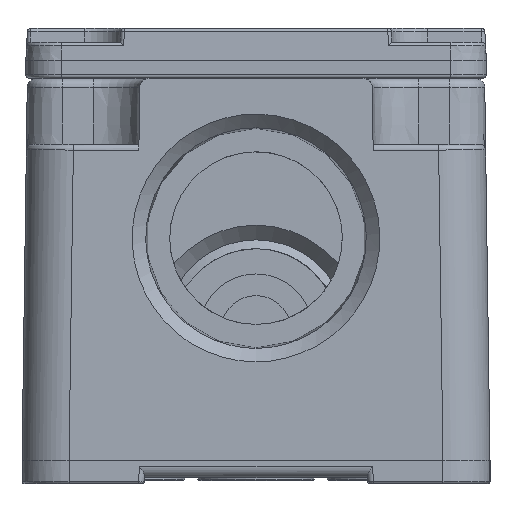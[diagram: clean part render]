
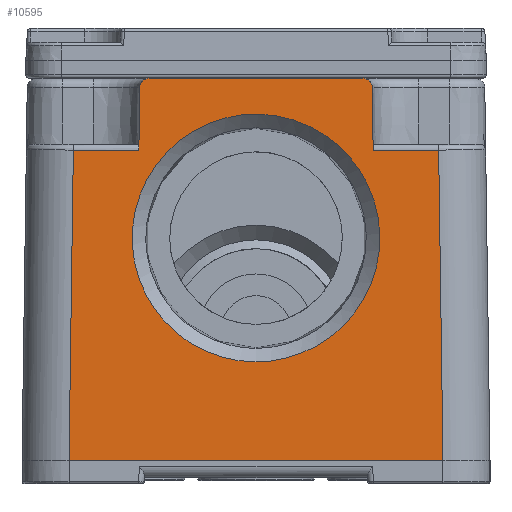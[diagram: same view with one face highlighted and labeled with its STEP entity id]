
A CAD part, left-side view. The second image highlights one B-rep face of the part: STEP entity #10595.
In plain terms, the highlighted planar face has unit normal (-1, 0, 0.011).
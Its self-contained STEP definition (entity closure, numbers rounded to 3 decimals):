
#7413 = VERTEX_POINT('',#7414);
#7414 = CARTESIAN_POINT('',(-26.671,8.705,
    17.42));
#7420 = EDGE_CURVE('',#7413,#7421,#7423,.T.);
#7421 = VERTEX_POINT('',#7422);
#7422 = CARTESIAN_POINT('',(-26.671,-9.482,
    17.42));
#7423 = LINE('',#7424,#7425);
#7424 = CARTESIAN_POINT('',(-26.671,-0.389,
    17.42));
#7425 = VECTOR('',#7426,1.);
#7426 = DIRECTION('',(0.,-1.,0.));
#7579 = EDGE_CURVE('',#7580,#7582,#7584,.T.);
#7580 = VERTEX_POINT('',#7581);
#7581 = CARTESIAN_POINT('',(-26.735,15.156,11.325
    ));
#7582 = VERTEX_POINT('',#7583);
#7583 = CARTESIAN_POINT('',(-27.011,15.525,
    -15.08));
#7584 = LINE('',#7585,#7586);
#7585 = CARTESIAN_POINT('',(-27.009,15.522,
    -14.858));
#7586 = VECTOR('',#7587,1.);
#7587 = DIRECTION('',(-0.01,0.014,
    -1.));
#9175 = VERTEX_POINT('',#9176);
#9176 = CARTESIAN_POINT('',(-27.011,-16.302,
    -15.08));
#9182 = EDGE_CURVE('',#9175,#7582,#9183,.T.);
#9183 = LINE('',#9184,#9185);
#9184 = CARTESIAN_POINT('',(-27.011,-0.389,
    -15.08));
#9185 = VECTOR('',#9186,1.);
#9186 = DIRECTION('',(0.,1.,0.));
#10595 = ADVANCED_FACE('',(#10596,#10621),#10680,.F.);
#10596 = FACE_BOUND('',#10597,.T.);
#10597 = EDGE_LOOP('',(#10598));
#10598 = ORIENTED_EDGE('',*,*,#10599,.T.);
#10599 = EDGE_CURVE('',#10600,#10600,#10602,.T.);
#10600 = VERTEX_POINT('',#10601);
#10601 = CARTESIAN_POINT('',(-26.924,-0.389,
    -6.704));
#10602 = B_SPLINE_CURVE_WITH_KNOTS('',3,(#10603,#10604,#10605,#10606,
    #10607,#10608,#10609,#10610,#10611,#10612,#10613,#10614,#10615,
    #10616,#10617,#10618,#10619,#10620),.UNSPECIFIED.,.T.,.F.,(2,2,2,2,2
    ,2,2,2,2,2,2),(-0.125,0.,0.125,0.25,0.375,0.5,0.625,0.75,0.875,1.,
    1.125),.UNSPECIFIED.);
#10603 = CARTESIAN_POINT('',(-26.924,-3.153,
    -6.704));
#10604 = CARTESIAN_POINT('',(-26.924,2.375,
    -6.704));
#10605 = CARTESIAN_POINT('',(-26.912,5.112,
    -5.571));
#10606 = CARTESIAN_POINT('',(-26.871,9.02,
    -1.662));
#10607 = CARTESIAN_POINT('',(-26.842,10.154,
    1.074));
#10608 = CARTESIAN_POINT('',(-26.784,10.154,
    6.602));
#10609 = CARTESIAN_POINT('',(-26.756,9.02,
    9.339));
#10610 = CARTESIAN_POINT('',(-26.715,5.112,
    13.247));
#10611 = CARTESIAN_POINT('',(-26.703,2.375,
    14.381));
#10612 = CARTESIAN_POINT('',(-26.703,-3.153,
    14.381));
#10613 = CARTESIAN_POINT('',(-26.715,-5.889,
    13.247));
#10614 = CARTESIAN_POINT('',(-26.756,-9.798,
    9.339));
#10615 = CARTESIAN_POINT('',(-26.784,-10.931,
    6.602));
#10616 = CARTESIAN_POINT('',(-26.842,-10.931,
    1.074));
#10617 = CARTESIAN_POINT('',(-26.871,-9.798,
    -1.662));
#10618 = CARTESIAN_POINT('',(-26.912,-5.889,
    -5.571));
#10619 = CARTESIAN_POINT('',(-26.924,-3.153,
    -6.704));
#10620 = CARTESIAN_POINT('',(-26.924,2.375,
    -6.704));
#10621 = FACE_BOUND('',#10622,.T.);
#10622 = EDGE_LOOP('',(#10623,#10624,#10633,#10641,#10647,#10648,#10649,
    #10657,#10665,#10673));
#10623 = ORIENTED_EDGE('',*,*,#7420,.F.);
#10624 = ORIENTED_EDGE('',*,*,#10625,.T.);
#10625 = EDGE_CURVE('',#7413,#10626,#10628,.T.);
#10626 = VERTEX_POINT('',#10627);
#10627 = CARTESIAN_POINT('',(-26.679,9.505,
    16.631));
#10628 = ELLIPSE('',#10629,0.8,0.8);
#10629 = AXIS2_PLACEMENT_3D('',#10630,#10631,#10632);
#10630 = CARTESIAN_POINT('',(-26.679,8.705,
    16.62));
#10631 = DIRECTION('',(-1.,0.,
    0.01));
#10632 = DIRECTION('',(0.01,0.,
    1.));
#10633 = ORIENTED_EDGE('',*,*,#10634,.T.);
#10634 = EDGE_CURVE('',#10626,#10635,#10637,.T.);
#10635 = VERTEX_POINT('',#10636);
#10636 = CARTESIAN_POINT('',(-26.735,9.58,
    11.325));
#10637 = LINE('',#10638,#10639);
#10638 = CARTESIAN_POINT('',(-27.01,9.951,
    -14.934));
#10639 = VECTOR('',#10640,1.);
#10640 = DIRECTION('',(-0.01,0.014,
    -1.));
#10641 = ORIENTED_EDGE('',*,*,#10642,.T.);
#10642 = EDGE_CURVE('',#10635,#7580,#10643,.T.);
#10643 = LINE('',#10644,#10645);
#10644 = CARTESIAN_POINT('',(-26.735,15.149,
    11.325));
#10645 = VECTOR('',#10646,1.);
#10646 = DIRECTION('',(0.,1.,0.));
#10647 = ORIENTED_EDGE('',*,*,#7579,.T.);
#10648 = ORIENTED_EDGE('',*,*,#9182,.F.);
#10649 = ORIENTED_EDGE('',*,*,#10650,.F.);
#10650 = EDGE_CURVE('',#10651,#9175,#10653,.T.);
#10651 = VERTEX_POINT('',#10652);
#10652 = CARTESIAN_POINT('',(-26.735,-15.933,
    11.325));
#10653 = LINE('',#10654,#10655);
#10654 = CARTESIAN_POINT('',(-27.008,-16.298,
    -14.778));
#10655 = VECTOR('',#10656,1.);
#10656 = DIRECTION('',(-0.01,-0.014,
    -1.));
#10657 = ORIENTED_EDGE('',*,*,#10658,.T.);
#10658 = EDGE_CURVE('',#10651,#10659,#10661,.T.);
#10659 = VERTEX_POINT('',#10660);
#10660 = CARTESIAN_POINT('',(-26.735,-10.357,
    11.325));
#10661 = LINE('',#10662,#10663);
#10662 = CARTESIAN_POINT('',(-26.735,-0.389,
    11.325));
#10663 = VECTOR('',#10664,1.);
#10664 = DIRECTION('',(0.,1.,0.));
#10665 = ORIENTED_EDGE('',*,*,#10666,.T.);
#10666 = EDGE_CURVE('',#10659,#10667,#10669,.T.);
#10667 = VERTEX_POINT('',#10668);
#10668 = CARTESIAN_POINT('',(-26.679,-10.282,
    16.631));
#10669 = LINE('',#10670,#10671);
#10670 = CARTESIAN_POINT('',(-27.01,-10.729,
    -14.934));
#10671 = VECTOR('',#10672,1.);
#10672 = DIRECTION('',(0.01,0.014,
    1.));
#10673 = ORIENTED_EDGE('',*,*,#10674,.T.);
#10674 = EDGE_CURVE('',#10667,#7421,#10675,.T.);
#10675 = ELLIPSE('',#10676,0.8,0.8);
#10676 = AXIS2_PLACEMENT_3D('',#10677,#10678,#10679);
#10677 = CARTESIAN_POINT('',(-26.679,-9.482,
    16.62));
#10678 = DIRECTION('',(-1.,0.,0.01));
#10679 = DIRECTION('',(-0.01,0.,-1.));
#10680 = PLANE('',#10681);
#10681 = AXIS2_PLACEMENT_3D('',#10682,#10683,#10684);
#10682 = CARTESIAN_POINT('',(-27.011,-0.389,
    -15.08));
#10683 = DIRECTION('',(1.,0.,-0.01));
#10684 = DIRECTION('',(0.01,0.,1.));
